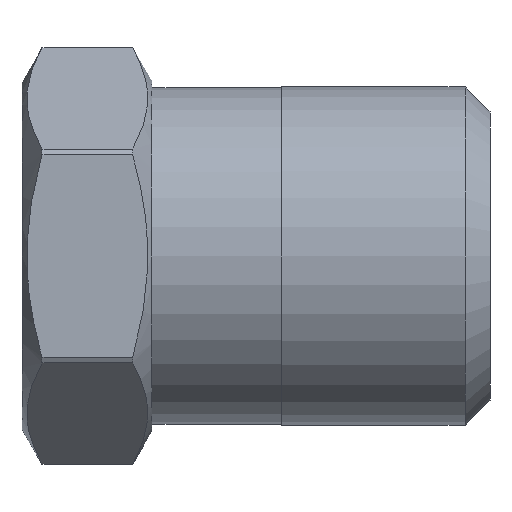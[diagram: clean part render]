
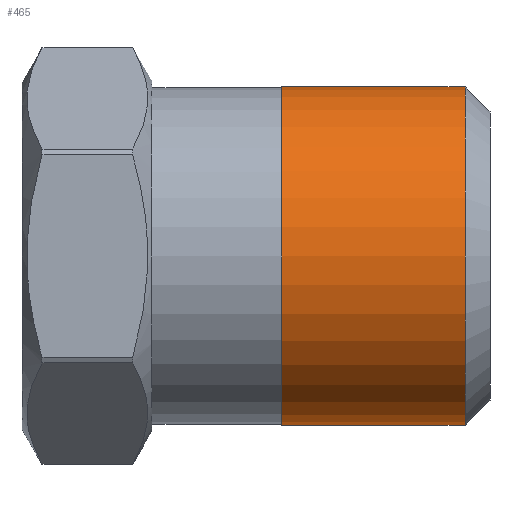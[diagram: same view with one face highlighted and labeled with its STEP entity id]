
A CAD part, left-side view. The second image highlights one B-rep face of the part: STEP entity #465.
In plain terms, the highlighted cylindrical face has radius 5.156 mm (diameter 10.312 mm), a full revolution.
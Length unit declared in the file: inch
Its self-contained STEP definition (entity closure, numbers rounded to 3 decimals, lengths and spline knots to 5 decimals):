
#28=CYLINDRICAL_SURFACE('',#536,0.203);
#59=CIRCLE('',#534,0.203);
#60=CIRCLE('',#535,0.203);
#61=CIRCLE('',#537,0.203);
#62=CIRCLE('',#538,0.203);
#92=FACE_OUTER_BOUND('',#121,.T.);
#121=EDGE_LOOP('',(#412,#413,#414,#415,#416,#417));
#146=LINE('',#843,#167);
#167=VECTOR('',#673,0.203);
#222=VERTEX_POINT('',#836);
#223=VERTEX_POINT('',#838);
#224=VERTEX_POINT('',#842);
#225=VERTEX_POINT('',#844);
#288=EDGE_CURVE('',#222,#223,#59,.T.);
#289=EDGE_CURVE('',#223,#222,#60,.T.);
#290=EDGE_CURVE('',#223,#224,#146,.T.);
#291=EDGE_CURVE('',#224,#225,#61,.T.);
#292=EDGE_CURVE('',#225,#224,#62,.T.);
#412=ORIENTED_EDGE('',*,*,#288,.F.);
#413=ORIENTED_EDGE('',*,*,#289,.F.);
#414=ORIENTED_EDGE('',*,*,#290,.T.);
#415=ORIENTED_EDGE('',*,*,#291,.T.);
#416=ORIENTED_EDGE('',*,*,#292,.T.);
#417=ORIENTED_EDGE('',*,*,#290,.F.);
#465=ADVANCED_FACE('',(#92),#28,.T.);
#534=AXIS2_PLACEMENT_3D('',#839,#667,#668);
#535=AXIS2_PLACEMENT_3D('',#840,#669,#670);
#536=AXIS2_PLACEMENT_3D('',#841,#671,#672);
#537=AXIS2_PLACEMENT_3D('',#845,#674,#675);
#538=AXIS2_PLACEMENT_3D('',#846,#676,#677);
#667=DIRECTION('center_axis',(0.,-1.,0.));
#668=DIRECTION('ref_axis',(0.,0.,1.));
#669=DIRECTION('center_axis',(0.,-1.,0.));
#670=DIRECTION('ref_axis',(0.,0.,1.));
#671=DIRECTION('center_axis',(0.,-1.,0.));
#672=DIRECTION('ref_axis',(0.,0.,-1.));
#673=DIRECTION('',(0.,1.,0.));
#674=DIRECTION('center_axis',(0.,-1.,0.));
#675=DIRECTION('ref_axis',(1.,0.,0.));
#676=DIRECTION('center_axis',(0.,-1.,0.));
#677=DIRECTION('ref_axis',(1.,0.,0.));
#836=CARTESIAN_POINT('',(0.,0.03,-0.203));
#838=CARTESIAN_POINT('',(0.,0.03,0.203));
#839=CARTESIAN_POINT('Origin',(0.,0.03,0.));
#840=CARTESIAN_POINT('Origin',(0.,0.03,0.));
#841=CARTESIAN_POINT('Origin',(0.,0.125,0.));
#842=CARTESIAN_POINT('',(0.,0.25,0.203));
#843=CARTESIAN_POINT('',(0.,0.125,0.203));
#844=CARTESIAN_POINT('',(0.,0.25,-0.203));
#845=CARTESIAN_POINT('Origin',(0.,0.25,0.));
#846=CARTESIAN_POINT('Origin',(0.,0.25,0.));
